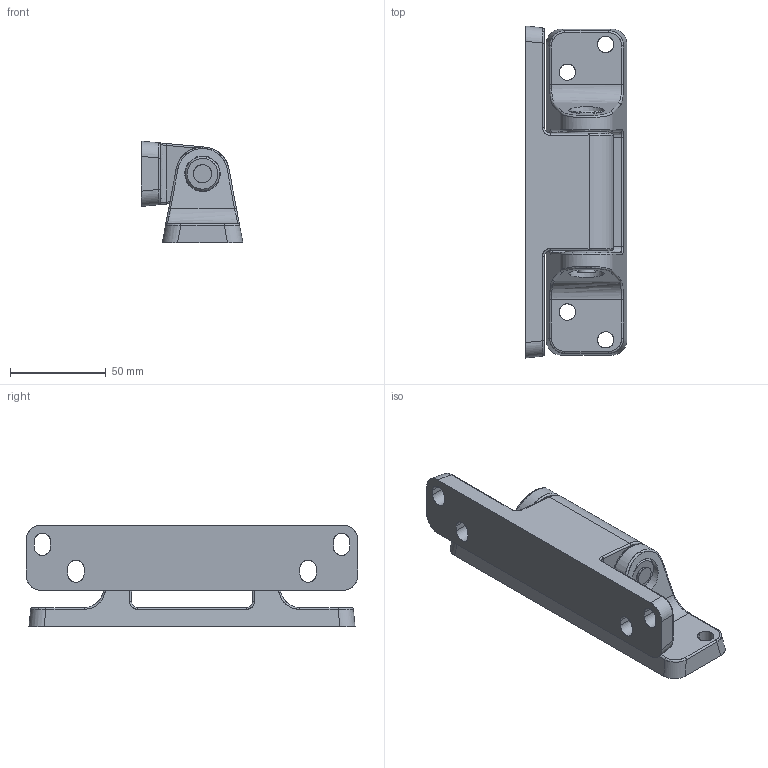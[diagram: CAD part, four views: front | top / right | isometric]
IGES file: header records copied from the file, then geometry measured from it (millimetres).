
Start section: SolidWorks IGES FILE using analytic representation for surfaces
Global section: file name: E:\妙子\仕事\solidworks\ヒンジ20130813\EFH-110S\EFH-110S-1\EFH-110S-1.IGS; native system: SolidWorks 2003 by SolidWorks Corporation; preprocessor: Version 5.3; author: 妙子,,; organization: 11; date: 130814.210004; units: millimetre
Bounding box: 53 x 173 x 53 mm (x, y, z)
Surface area: 53822.7 mm2 (no closed solid volume)
Topology: 0 solids, 0 shells, 154 faces, 2338 edges, 2338 vertices
Faces by surface type: revolution 85, bspline 69
